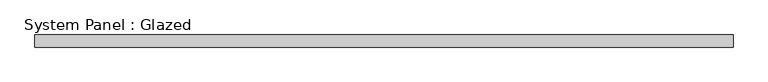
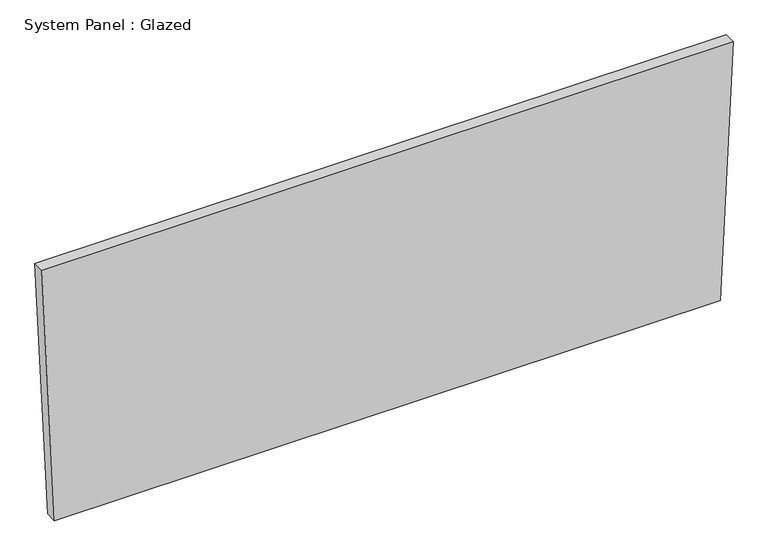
"""IFC4 building model written with IfcOpenShell, lengths in millimetres: plate geometry, System Panel : Glazed."""

import ifcopenshell
import ifcopenshell.guid

model = None  # the IFC model being written
_history = None  # IfcOwnerHistory: only IFC2X3 demands one
_inside = {}  # id of a spatial element -> (the spatial element, [elements in it])
_under = {}  # id of a project, library or spatial element -> (it, [spatial elements below it])
_declared = {}  # id of a project -> (the project, [libraries it declares])
_typed = {}  # id of a type object -> (the type object, [elements of that type])
_made_of = {}  # id of a material, layer set ... -> (it, [elements and type objects made of it])


def new_model(schema):
    """Start an empty IFC model of exactly this schema.

    Asked for "IFC4X3", IfcOpenShell would pick the latest addendum, in which some entities
    have other attributes; the version numbers below select the first issue.
    IFC2X3 requires an IfcOwnerHistory on every rooted entity: one is made here for all.
    """
    global model, _history
    if schema == "IFC4X3":
        model = ifcopenshell.file(schema_version=(4, 3, 0, 0))
    else:
        model = ifcopenshell.file(schema=schema)
    _inside.clear()
    _under.clear()
    _declared.clear()
    _typed.clear()
    _made_of.clear()
    _history = None
    if model.schema == "IFC2X3":
        org = make("IfcOrganization", Name="unknown")
        user = make(
            "IfcPersonAndOrganization",
            ThePerson=make("IfcPerson", FamilyName="unknown"),
            TheOrganization=org,
        )
        app = make(
            "IfcApplication",
            ApplicationDeveloper=org,
            Version="unknown",
            ApplicationFullName="unknown",
            ApplicationIdentifier="unknown",
        )
        _history = make(
            "IfcOwnerHistory",
            OwningUser=user,
            OwningApplication=app,
            ChangeAction="ADDED",
            CreationDate=0,
        )
    return model


def make(cls, **values):
    """One entity of the class cls with the attributes given. An attribute that is None is left unset."""
    return model.create_entity(
        cls, **{name: value for name, value in values.items() if value is not None}
    )


def rooted(cls, **values):
    """An entity with a GlobalId (a new one), such as an element, a storey or a relation."""
    return make(cls, GlobalId=ifcopenshell.guid.new(), OwnerHistory=_history, **values)


def si_unit(unit_type, name, prefix=None):
    """IfcSIUnit, for example si_unit("LENGTHUNIT", "METRE", prefix="MILLI")."""
    return make("IfcSIUnit", UnitType=unit_type, Prefix=prefix, Name=name)


def assignment(units):
    """IfcUnitAssignment: the units of a project."""
    return None if units is None else make("IfcUnitAssignment", Units=units)


def point(xyz):
    """IfcCartesianPoint."""
    return None if xyz is None else make("IfcCartesianPoint", Coordinates=xyz)


def direction(xyz):
    """IfcDirection."""
    return None if xyz is None else make("IfcDirection", DirectionRatios=xyz)


def frame(location, z_axis=None, x_axis=None):
    """IfcAxis2Placement3D, a coordinate frame: its origin and axes. An axis left out is left unset."""
    return make(
        "IfcAxis2Placement3D",
        Location=point(location),
        Axis=direction(z_axis),
        RefDirection=direction(x_axis),
    )


def origin():
    """The frame at (0, 0, 0) with its axes left unset."""
    return frame((0.0, 0.0, 0.0))


def place(relative_to, where):
    """IfcLocalPlacement: puts the frame where relative to a parent placement (None: the world)."""
    return make(
        "IfcLocalPlacement", PlacementRelTo=relative_to, RelativePlacement=where
    )


def context(
    kind, dimensions, precision=None, world=None, true_north=None, identifier=None
):
    """IfcGeometricRepresentationContext, for example the 3D "Model" context."""
    return make(
        "IfcGeometricRepresentationContext",
        ContextIdentifier=identifier,
        ContextType=kind,
        CoordinateSpaceDimension=dimensions,
        Precision=precision,
        WorldCoordinateSystem=world,
        TrueNorth=true_north,
    )


def project(units=None, contexts=None):
    """IfcProject with its units and contexts."""
    return rooted(
        "IfcProject",
        Name="project",
        RepresentationContexts=contexts,
        UnitsInContext=assignment(units),
    )


def spatial(cls, under=None, at=None, **own):
    """A site, building, storey or space (cls), placed at a placement, below another one or the project."""
    s = rooted(cls, ObjectPlacement=at, **own)
    if under is not None:
        _under.setdefault(under.id(), (under, []))[1].append(s)
    return s


def polyline(points):
    """IfcPolyline through the points."""
    return make("IfcPolyline", Points=[point(p) for p in points])


def outline(outer, holes=None, kind="AREA"):
    """IfcArbitraryClosedProfileDef: a profile drawn as a closed curve; with holes, ...WithVoids."""
    if holes is None:
        return make("IfcArbitraryClosedProfileDef", ProfileType=kind, OuterCurve=outer)
    return make(
        "IfcArbitraryProfileDefWithVoids",
        ProfileType=kind,
        OuterCurve=outer,
        InnerCurves=holes,
    )


def extrude(swept, where, along, depth):
    """IfcExtrudedAreaSolid: the profile swept, set in the frame where, extruded along a direction by depth."""
    return make(
        "IfcExtrudedAreaSolid",
        SweptArea=swept,
        Position=where,
        ExtrudedDirection=direction(along),
        Depth=depth,
    )


def shape(context_of_items, identifier, shape_type, items):
    """IfcShapeRepresentation: the items that make up one representation, for example the "Body"."""
    return make(
        "IfcShapeRepresentation",
        ContextOfItems=context_of_items,
        RepresentationIdentifier=identifier,
        RepresentationType=shape_type,
        Items=items,
    )


def source(mapping_origin, context_of_items, identifier, shape_type, items):
    """IfcRepresentationMap: a shape defined once, which mapped items show again and again."""
    return make(
        "IfcRepresentationMap",
        MappingOrigin=mapping_origin,
        MappedRepresentation=shape(context_of_items, identifier, shape_type, items),
    )


def transform(
    local_origin,
    x_axis=None,
    y_axis=None,
    z_axis=None,
    scale=None,
    scale2=None,
    scale3=None,
    uniform=True,
):
    """IfcCartesianTransformationOperator3D, or its non-uniform kind. x_axis, y_axis, z_axis: its Axis1, 2, 3."""
    if uniform:
        return make(
            "IfcCartesianTransformationOperator3D",
            Axis1=direction(x_axis),
            Axis2=direction(y_axis),
            LocalOrigin=point(local_origin),
            Scale=scale,
            Axis3=direction(z_axis),
        )
    return make(
        "IfcCartesianTransformationOperator3DnonUniform",
        Axis1=direction(x_axis),
        Axis2=direction(y_axis),
        LocalOrigin=point(local_origin),
        Scale=scale,
        Axis3=direction(z_axis),
        Scale2=scale2,
        Scale3=scale3,
    )


def mapped(mapping_source, mapping_target):
    """IfcMappedItem: shows the shape of a source again, moved by a transform."""
    return make(
        "IfcMappedItem", MappingSource=mapping_source, MappingTarget=mapping_target
    )


def made_of(thing, what):
    """Note that an element or type object is made of a material, layer set ...; save() writes the relation."""
    if what is not None:
        _made_of.setdefault(what.id(), (what, []))[1].append(thing)
    return thing


def element(
    cls,
    number,
    at=None,
    inside=None,
    cuts=None,
    type_object=None,
    material=None,
    context=None,
    identifier="Body",
    shape_type=None,
    held_by="IfcProductDefinitionShape",
    body=None,
    shapes=None,
    **own,
):
    """One element of the class cls, such as IfcWall. Its Tag is "e" and its number.

    at: its placement. inside: the storey or other place that contains it. cuts: it is an
    opening in that element (IfcRelVoidsElement). A single representation is given by context,
    identifier, shape_type and body (its items); several are given by shapes. held_by: the class
    of the entity that holds the representations. save() writes the other relations.
    """
    e = rooted(cls, Tag="e%d" % number, ObjectPlacement=at, **own)
    if body is not None:
        shapes = [shape(context, identifier, shape_type, body)]
    if shapes is not None:
        e.Representation = make(held_by, Representations=shapes)
    if inside is not None:
        _inside.setdefault(inside.id(), (inside, []))[1].append(e)
    if cuts is not None:
        rooted(
            "IfcRelVoidsElement", RelatingBuildingElement=cuts, RelatedOpeningElement=e
        )
    if type_object is not None:
        _typed.setdefault(type_object.id(), (type_object, []))[1].append(e)
    return made_of(e, material)


def aggregate(whole, parts):
    """IfcRelAggregates: a whole, such as a stair, and the parts it consists of."""
    return rooted("IfcRelAggregates", RelatingObject=whole, RelatedObjects=parts)


def save(model, path):
    """Write the relations noted so far, then the file.

    IfcRelAggregates (storeys below a building ...), IfcRelContainedInSpatialStructure (elements
    in a storey), IfcRelDefinesByType, IfcRelAssociatesMaterial and IfcRelDeclares: one each for
    every whole, place, type object, material and project.
    """
    for whole, parts in _under.values():
        aggregate(whole, parts)
    for where, things in _inside.values():
        rooted(
            "IfcRelContainedInSpatialStructure",
            RelatedElements=things,
            RelatingStructure=where,
        )
    for kind, things in _typed.values():
        rooted("IfcRelDefinesByType", RelatedObjects=things, RelatingType=kind)
    for what, things in _made_of.values():
        rooted("IfcRelAssociatesMaterial", RelatedObjects=things, RelatingMaterial=what)
    for by, libraries in _declared.values():
        rooted("IfcRelDeclares", RelatingContext=by, RelatedDefinitions=libraries)
    model.write(path)


def system_panel_glazed_c66e7ca1(model_context):
    return source(origin(), model_context, "Body", "SweptSolid", [
        extrude(outline(polyline([(0.0, -705.6650434), (0.0, 705.6650434), (570.8339015, 732.3721986), (570.8339015, -732.3721986), (0.0, -705.6650434)])), frame((0.0, 19.05, 0.0), z_axis=(0.0, 1.0, 0.0), x_axis=(0.0, 0.0, 1.0)), (0.0, 0.0, 1.0), 25.4),
    ])


if __name__ == "__main__":
    model = new_model("IFC4")
    model_context = context("Model", 3, world=origin())
    ifc_project = project(units=[si_unit("LENGTHUNIT", "METRE", prefix="MILLI")], contexts=[model_context])
    site = spatial("IfcSite", under=ifc_project)
    building = spatial("IfcBuilding", under=site)
    placement = place(None, origin())
    system_panel_glazed_shape = system_panel_glazed_c66e7ca1(model_context)
    element("IfcPlate", 1, ObjectType="System Panel : Glazed", at=placement, inside=building, context=model_context, shape_type="MappedRepresentation", body=[
        mapped(system_panel_glazed_shape, transform((0.0, 0.0, 0.0), x_axis=(1.0, 0.0, 0.0), y_axis=(0.0, 1.0, 0.0), z_axis=(0.0, 0.0, 1.0))),
    ])
    save(model, "model.ifc")
